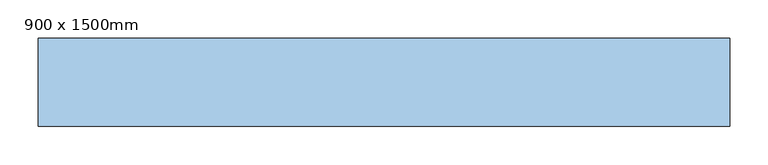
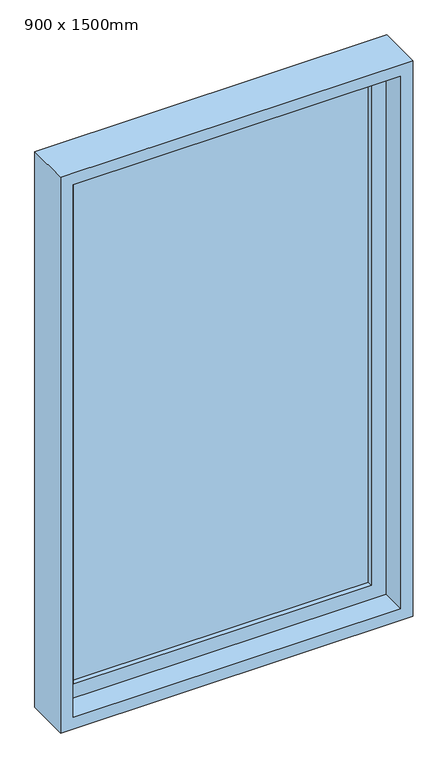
"""IFC4 building model written with IfcOpenShell, lengths in millimetres: window geometry, M_Okno, křídlo, samostatné levé : 900 x 1500mm."""

import ifcopenshell
import ifcopenshell.guid

model = None  # the IFC model being written
_history = None  # IfcOwnerHistory: only IFC2X3 demands one
_inside = {}  # id of a spatial element -> (the spatial element, [elements in it])
_under = {}  # id of a project, library or spatial element -> (it, [spatial elements below it])
_declared = {}  # id of a project -> (the project, [libraries it declares])
_typed = {}  # id of a type object -> (the type object, [elements of that type])
_made_of = {}  # id of a material, layer set ... -> (it, [elements and type objects made of it])


def new_model(schema):
    """Start an empty IFC model of exactly this schema.

    Asked for "IFC4X3", IfcOpenShell would pick the latest addendum, in which some entities
    have other attributes; the version numbers below select the first issue.
    IFC2X3 requires an IfcOwnerHistory on every rooted entity: one is made here for all.
    """
    global model, _history
    if schema == "IFC4X3":
        model = ifcopenshell.file(schema_version=(4, 3, 0, 0))
    else:
        model = ifcopenshell.file(schema=schema)
    _inside.clear()
    _under.clear()
    _declared.clear()
    _typed.clear()
    _made_of.clear()
    _history = None
    if model.schema == "IFC2X3":
        org = make("IfcOrganization", Name="unknown")
        user = make(
            "IfcPersonAndOrganization",
            ThePerson=make("IfcPerson", FamilyName="unknown"),
            TheOrganization=org,
        )
        app = make(
            "IfcApplication",
            ApplicationDeveloper=org,
            Version="unknown",
            ApplicationFullName="unknown",
            ApplicationIdentifier="unknown",
        )
        _history = make(
            "IfcOwnerHistory",
            OwningUser=user,
            OwningApplication=app,
            ChangeAction="ADDED",
            CreationDate=0,
        )
    return model


def make(cls, **values):
    """One entity of the class cls with the attributes given. An attribute that is None is left unset."""
    return model.create_entity(
        cls, **{name: value for name, value in values.items() if value is not None}
    )


def rooted(cls, **values):
    """An entity with a GlobalId (a new one), such as an element, a storey or a relation."""
    return make(cls, GlobalId=ifcopenshell.guid.new(), OwnerHistory=_history, **values)


def si_unit(unit_type, name, prefix=None):
    """IfcSIUnit, for example si_unit("LENGTHUNIT", "METRE", prefix="MILLI")."""
    return make("IfcSIUnit", UnitType=unit_type, Prefix=prefix, Name=name)


def assignment(units):
    """IfcUnitAssignment: the units of a project."""
    return None if units is None else make("IfcUnitAssignment", Units=units)


def point(xyz):
    """IfcCartesianPoint."""
    return None if xyz is None else make("IfcCartesianPoint", Coordinates=xyz)


def direction(xyz):
    """IfcDirection."""
    return None if xyz is None else make("IfcDirection", DirectionRatios=xyz)


def frame(location, z_axis=None, x_axis=None):
    """IfcAxis2Placement3D, a coordinate frame: its origin and axes. An axis left out is left unset."""
    return make(
        "IfcAxis2Placement3D",
        Location=point(location),
        Axis=direction(z_axis),
        RefDirection=direction(x_axis),
    )


def origin():
    """The frame at (0, 0, 0) with its axes left unset."""
    return frame((0.0, 0.0, 0.0))


def place(relative_to, where):
    """IfcLocalPlacement: puts the frame where relative to a parent placement (None: the world)."""
    return make(
        "IfcLocalPlacement", PlacementRelTo=relative_to, RelativePlacement=where
    )


def context(
    kind, dimensions, precision=None, world=None, true_north=None, identifier=None
):
    """IfcGeometricRepresentationContext, for example the 3D "Model" context."""
    return make(
        "IfcGeometricRepresentationContext",
        ContextIdentifier=identifier,
        ContextType=kind,
        CoordinateSpaceDimension=dimensions,
        Precision=precision,
        WorldCoordinateSystem=world,
        TrueNorth=true_north,
    )


def project(units=None, contexts=None):
    """IfcProject with its units and contexts."""
    return rooted(
        "IfcProject",
        Name="project",
        RepresentationContexts=contexts,
        UnitsInContext=assignment(units),
    )


def spatial(cls, under=None, at=None, **own):
    """A site, building, storey or space (cls), placed at a placement, below another one or the project."""
    s = rooted(cls, ObjectPlacement=at, **own)
    if under is not None:
        _under.setdefault(under.id(), (under, []))[1].append(s)
    return s


def polyline(points):
    """IfcPolyline through the points."""
    return make("IfcPolyline", Points=[point(p) for p in points])


def outline(outer, holes=None, kind="AREA"):
    """IfcArbitraryClosedProfileDef: a profile drawn as a closed curve; with holes, ...WithVoids."""
    if holes is None:
        return make("IfcArbitraryClosedProfileDef", ProfileType=kind, OuterCurve=outer)
    return make(
        "IfcArbitraryProfileDefWithVoids",
        ProfileType=kind,
        OuterCurve=outer,
        InnerCurves=holes,
    )


def extrude(swept, where, along, depth):
    """IfcExtrudedAreaSolid: the profile swept, set in the frame where, extruded along a direction by depth."""
    return make(
        "IfcExtrudedAreaSolid",
        SweptArea=swept,
        Position=where,
        ExtrudedDirection=direction(along),
        Depth=depth,
    )


def faces_of(points, faces, orient=None, outer=None):
    """IfcFace entities. A face is a list of loops; a loop is a list of indices into points, from 0.

    orient and outer hold one flag for each loop. By default every Orientation is true, the
    first loop of a face is its IfcFaceOuterBound and the others are IfcFaceBound.
    """
    made = []
    for i, loops in enumerate(faces):
        bounds = []
        for j, loop in enumerate(loops):
            is_outer = j == 0 if outer is None else outer[i][j]
            bounds.append(
                make(
                    "IfcFaceOuterBound" if is_outer else "IfcFaceBound",
                    Bound=make("IfcPolyLoop", Polygon=[points[k] for k in loop]),
                    Orientation=True if orient is None else orient[i][j],
                )
            )
        made.append(make("IfcFace", Bounds=bounds))
    return made


def faceted_brep(points, faces, orient=None, outer=None, voids=None):
    """IfcFacetedBrep: a solid bounded by flat faces; with voids (closed shells), ...WithVoids."""
    shared = [point(p) for p in points]
    hull = make("IfcClosedShell", CfsFaces=faces_of(shared, faces, orient, outer))
    if voids is None:
        return make("IfcFacetedBrep", Outer=hull)
    return make(
        "IfcFacetedBrepWithVoids",
        Outer=hull,
        Voids=[
            make(cls, CfsFaces=faces_of(shared, fs, o, b)) for cls, fs, o, b in voids
        ],
    )


def shape(context_of_items, identifier, shape_type, items):
    """IfcShapeRepresentation: the items that make up one representation, for example the "Body"."""
    return make(
        "IfcShapeRepresentation",
        ContextOfItems=context_of_items,
        RepresentationIdentifier=identifier,
        RepresentationType=shape_type,
        Items=items,
    )


def source(mapping_origin, context_of_items, identifier, shape_type, items):
    """IfcRepresentationMap: a shape defined once, which mapped items show again and again."""
    return make(
        "IfcRepresentationMap",
        MappingOrigin=mapping_origin,
        MappedRepresentation=shape(context_of_items, identifier, shape_type, items),
    )


def transform(
    local_origin,
    x_axis=None,
    y_axis=None,
    z_axis=None,
    scale=None,
    scale2=None,
    scale3=None,
    uniform=True,
):
    """IfcCartesianTransformationOperator3D, or its non-uniform kind. x_axis, y_axis, z_axis: its Axis1, 2, 3."""
    if uniform:
        return make(
            "IfcCartesianTransformationOperator3D",
            Axis1=direction(x_axis),
            Axis2=direction(y_axis),
            LocalOrigin=point(local_origin),
            Scale=scale,
            Axis3=direction(z_axis),
        )
    return make(
        "IfcCartesianTransformationOperator3DnonUniform",
        Axis1=direction(x_axis),
        Axis2=direction(y_axis),
        LocalOrigin=point(local_origin),
        Scale=scale,
        Axis3=direction(z_axis),
        Scale2=scale2,
        Scale3=scale3,
    )


def mapped(mapping_source, mapping_target):
    """IfcMappedItem: shows the shape of a source again, moved by a transform."""
    return make(
        "IfcMappedItem", MappingSource=mapping_source, MappingTarget=mapping_target
    )


def made_of(thing, what):
    """Note that an element or type object is made of a material, layer set ...; save() writes the relation."""
    if what is not None:
        _made_of.setdefault(what.id(), (what, []))[1].append(thing)
    return thing


def element(
    cls,
    number,
    at=None,
    inside=None,
    cuts=None,
    type_object=None,
    material=None,
    context=None,
    identifier="Body",
    shape_type=None,
    held_by="IfcProductDefinitionShape",
    body=None,
    shapes=None,
    **own,
):
    """One element of the class cls, such as IfcWall. Its Tag is "e" and its number.

    at: its placement. inside: the storey or other place that contains it. cuts: it is an
    opening in that element (IfcRelVoidsElement). A single representation is given by context,
    identifier, shape_type and body (its items); several are given by shapes. held_by: the class
    of the entity that holds the representations. save() writes the other relations.
    """
    e = rooted(cls, Tag="e%d" % number, ObjectPlacement=at, **own)
    if body is not None:
        shapes = [shape(context, identifier, shape_type, body)]
    if shapes is not None:
        e.Representation = make(held_by, Representations=shapes)
    if inside is not None:
        _inside.setdefault(inside.id(), (inside, []))[1].append(e)
    if cuts is not None:
        rooted(
            "IfcRelVoidsElement", RelatingBuildingElement=cuts, RelatedOpeningElement=e
        )
    if type_object is not None:
        _typed.setdefault(type_object.id(), (type_object, []))[1].append(e)
    return made_of(e, material)


def aggregate(whole, parts):
    """IfcRelAggregates: a whole, such as a stair, and the parts it consists of."""
    return rooted("IfcRelAggregates", RelatingObject=whole, RelatedObjects=parts)


def save(model, path):
    """Write the relations noted so far, then the file.

    IfcRelAggregates (storeys below a building ...), IfcRelContainedInSpatialStructure (elements
    in a storey), IfcRelDefinesByType, IfcRelAssociatesMaterial and IfcRelDeclares: one each for
    every whole, place, type object, material and project.
    """
    for whole, parts in _under.values():
        aggregate(whole, parts)
    for where, things in _inside.values():
        rooted(
            "IfcRelContainedInSpatialStructure",
            RelatedElements=things,
            RelatingStructure=where,
        )
    for kind, things in _typed.values():
        rooted("IfcRelDefinesByType", RelatedObjects=things, RelatingType=kind)
    for what, things in _made_of.values():
        rooted("IfcRelAssociatesMaterial", RelatedObjects=things, RelatingMaterial=what)
    for by, libraries in _declared.values():
        rooted("IfcRelDeclares", RelatingContext=by, RelatedDefinitions=libraries)
    model.write(path)


def window_900_x_1500mm_994527e6(model_context):
    return source(origin(), model_context, "Body", "SolidModel", [
        faceted_brep([(418.25, 68.25, 2368.25), (418.25, 4.75, 2368.25), (-418.25, 4.75, 2368.25), (-418.25, 68.25, 2368.25), (437.3, 119.05, 2387.3), (437.3, 68.25, 2387.3), (-437.3, 68.25, 2387.3), (-437.3, 119.05, 2387.3), (450.0, 4.75, 2400.0), (450.0, 119.05, 2400.0), (-450.0, 119.05, 2400.0), (-450.0, 4.75, 2400.0), (-418.25, 4.75, 931.75), (-418.25, 68.25, 931.75), (-437.3, 68.25, 912.7), (-437.3, 119.05, 912.7), (-450.0, 119.05, 900.0), (-450.0, 4.75, 900.0), (418.25, 4.75, 931.75), (418.25, 68.25, 931.75), (437.3, 68.25, 912.7), (437.3, 119.05, 912.7), (450.0, 119.05, 900.0), (450.0, 4.75, 900.0)], [[[0, 1, 2, 3]], [[4, 5, 6, 7]], [[8, 9, 10, 11]], [[3, 2, 12, 13]], [[7, 6, 14, 15]], [[11, 10, 16, 17]], [[13, 12, 18, 19]], [[15, 14, 20, 21]], [[17, 16, 22, 23]], [[11, 17, 23, 8], [1, 18, 12, 2]], [[19, 18, 1, 0]], [[5, 20, 14, 6], [3, 13, 19, 0]], [[21, 20, 5, 4]], [[23, 22, 9, 8]], [[9, 22, 16, 10], [7, 15, 21, 4]]]),
        extrude(outline(polyline([(2387.3, -437.3), (912.7, -437.3), (912.7, 437.3), (2387.3, 437.3), (2387.3, -437.3)]), holes=[polyline([(2330.15, 380.15), (969.85, 380.15), (969.85, -380.15), (2330.15, -380.15), (2330.15, 380.15)])]), frame((0.0, 68.25, 0.0), z_axis=(0.0, 1.0, 0.0), x_axis=(0.0, 0.0, 1.0)), (0.0, 0.0, 1.0), 44.45),
        extrude(outline(polyline([(380.15, 100.0), (380.15, 93.65), (-380.15, 93.65), (-380.15, 100.0), (380.15, 100.0)])), frame((0.0, 0.0, 969.85), z_axis=(0.0, 0.0, 1.0), x_axis=(1.0, 0.0, 0.0)), (0.0, 0.0, 1.0), 1360.3),
        extrude(outline(polyline([(-380.15, 80.95), (-380.15, 87.3), (380.15, 87.3), (380.15, 80.95), (-380.15, 80.95)])), frame((0.0, 0.0, 969.85), z_axis=(0.0, 0.0, 1.0), x_axis=(1.0, 0.0, 0.0)), (0.0, 0.0, 1.0), 1360.3),
    ])


if __name__ == "__main__":
    model = new_model("IFC4")
    model_context = context("Model", 3, world=origin())
    ifc_project = project(units=[si_unit("LENGTHUNIT", "METRE", prefix="MILLI")], contexts=[model_context])
    site = spatial("IfcSite", under=ifc_project)
    building = spatial("IfcBuilding", under=site)
    placement = place(None, origin())
    window_900_x_1500mm_shape = window_900_x_1500mm_994527e6(model_context)
    element("IfcWindow", 1, ObjectType="M_Okno, křídlo, samostatné levé : 900 x 1500mm", at=placement, inside=building, context=model_context, shape_type="MappedRepresentation", body=[
        mapped(window_900_x_1500mm_shape, transform((0.0, 0.0, 0.0), x_axis=(1.0, 0.0, 0.0), y_axis=(0.0, 1.0, 0.0), z_axis=(0.0, 0.0, 1.0))),
    ])
    save(model, "model.ifc")
